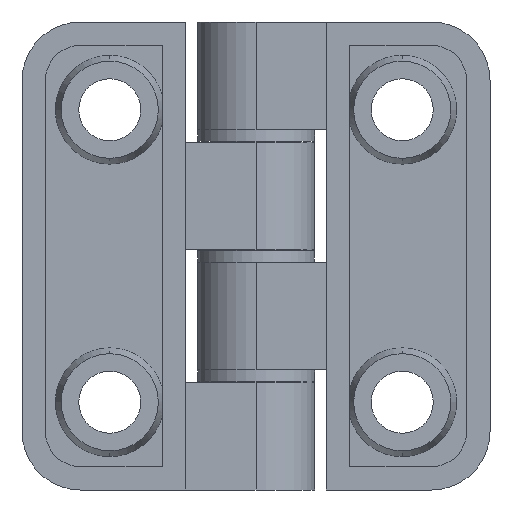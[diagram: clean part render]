
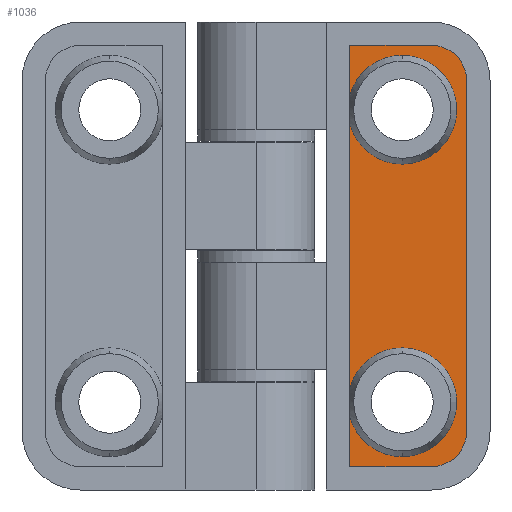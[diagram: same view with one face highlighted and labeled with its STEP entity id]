
A CAD part, front view. The second image highlights one B-rep face of the part: STEP entity #1036.
In plain terms, the highlighted planar face has unit normal (0, -1, 0).
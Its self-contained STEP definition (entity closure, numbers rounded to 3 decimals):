
#39 = DIRECTION ( 'NONE',  ( 0., 1., 0. ) ) ;
#41 = DIRECTION ( 'NONE',  ( 1., 0., 0. ) ) ;
#56 = PLANE ( 'NONE',  #2401 ) ;
#68 = CARTESIAN_POINT ( 'NONE',  ( 12.5, -4., 12.5 ) ) ;
#77 = ORIENTED_EDGE ( 'NONE', *, *, #2091, .T. ) ;
#82 = DIRECTION ( 'NONE',  ( 0., -1., 0. ) ) ;
#138 = AXIS2_PLACEMENT_3D ( 'NONE', #68, #2750, #449 ) ;
#189 = VECTOR ( 'NONE', #3817, 1000. ) ;
#265 = CARTESIAN_POINT ( 'NONE',  ( 15., -4., 15. ) ) ;
#266 = CARTESIAN_POINT ( 'NONE',  ( 15., -4., -15. ) ) ;
#305 = VERTEX_POINT ( 'NONE', #742 ) ;
#311 = LINE ( 'NONE', #3446, #189 ) ;
#312 = CARTESIAN_POINT ( 'NONE',  ( 8., -4., 18. ) ) ;
#316 = LINE ( 'NONE', #4300, #4244 ) ;
#443 = CARTESIAN_POINT ( 'NONE',  ( 18., -4., -15. ) ) ;
#449 = DIRECTION ( 'NONE',  ( 1., 0., 0. ) ) ;
#522 = CIRCLE ( 'NONE', #4781, 4.65 ) ;
#595 = VERTEX_POINT ( 'NONE', #1098 ) ;
#638 = CARTESIAN_POINT ( 'NONE',  ( 8., -4., -18. ) ) ;
#646 = DIRECTION ( 'NONE',  ( 1., 0., 0. ) ) ;
#665 = CARTESIAN_POINT ( 'NONE',  ( 15., -4., -18. ) ) ;
#690 = DIRECTION ( 'NONE',  ( 0., 0., -1. ) ) ;
#692 = DIRECTION ( 'NONE',  ( 0., 1., 0. ) ) ;
#740 = CARTESIAN_POINT ( 'NONE',  ( 15., -4., -15. ) ) ;
#742 = CARTESIAN_POINT ( 'NONE',  ( 12.5, -4., 7.85 ) ) ;
#747 = ORIENTED_EDGE ( 'NONE', *, *, #4128, .T. ) ;
#841 = ORIENTED_EDGE ( 'NONE', *, *, #4550, .T. ) ;
#914 = ORIENTED_EDGE ( 'NONE', *, *, #1055, .T. ) ;
#938 = ORIENTED_EDGE ( 'NONE', *, *, #1867, .T. ) ;
#1032 = DIRECTION ( 'NONE',  ( 0., 1., 0. ) ) ;
#1036 = ADVANCED_FACE ( 'NONE', ( #4544 ), #56, .T. ) ;
#1044 = VERTEX_POINT ( 'NONE', #4673 ) ;
#1055 = EDGE_CURVE ( 'NONE', #4364, #1138, #1392, .T. ) ;
#1074 = VERTEX_POINT ( 'NONE', #2708 ) ;
#1079 = VECTOR ( 'NONE', #4552, 1000. ) ;
#1098 = CARTESIAN_POINT ( 'NONE',  ( 18., -4., 15. ) ) ;
#1127 = DIRECTION ( 'NONE',  ( 1., 0., 0. ) ) ;
#1138 = VERTEX_POINT ( 'NONE', #4456 ) ;
#1192 = LINE ( 'NONE', #4160, #1079 ) ;
#1217 = VERTEX_POINT ( 'NONE', #3087 ) ;
#1238 = CARTESIAN_POINT ( 'NONE',  ( 8., -4., -18. ) ) ;
#1392 = CIRCLE ( 'NONE', #2146, 4.65 ) ;
#1421 = CIRCLE ( 'NONE', #4078, 4.65 ) ;
#1455 = VECTOR ( 'NONE', #690, 1000. ) ;
#1634 = DIRECTION ( 'NONE',  ( 1., 0., 0. ) ) ;
#1658 = CARTESIAN_POINT ( 'NONE',  ( 12.5, -4., -17.15 ) ) ;
#1720 = CARTESIAN_POINT ( 'NONE',  ( 12.5, -4., -12.5 ) ) ;
#1726 = EDGE_CURVE ( 'NONE', #1044, #4364, #522, .T. ) ;
#1790 = LINE ( 'NONE', #443, #3686 ) ;
#1867 = EDGE_CURVE ( 'NONE', #595, #2588, #2619, .T. ) ;
#1888 = VECTOR ( 'NONE', #1634, 1000. ) ;
#1914 = VERTEX_POINT ( 'NONE', #665 ) ;
#1920 = DIRECTION ( 'NONE',  ( 0., 1., 0. ) ) ;
#1950 = ORIENTED_EDGE ( 'NONE', *, *, #4646, .T. ) ;
#1979 = DIRECTION ( 'NONE',  ( 0., 1., 0. ) ) ;
#2022 = DIRECTION ( 'NONE',  ( -1., 0., 0. ) ) ;
#2026 = ORIENTED_EDGE ( 'NONE', *, *, #3658, .T. ) ;
#2091 = EDGE_CURVE ( 'NONE', #4962, #1044, #3023, .T. ) ;
#2146 = AXIS2_PLACEMENT_3D ( 'NONE', #4946, #1032, #4652 ) ;
#2168 = EDGE_CURVE ( 'NONE', #305, #2582, #3679, .T. ) ;
#2211 = EDGE_CURVE ( 'NONE', #3496, #305, #1421, .T. ) ;
#2261 = EDGE_CURVE ( 'NONE', #1074, #3496, #4466, .T. ) ;
#2276 = ORIENTED_EDGE ( 'NONE', *, *, #2858, .T. ) ;
#2336 = CARTESIAN_POINT ( 'NONE',  ( 12.5, -4., 12.5 ) ) ;
#2387 = AXIS2_PLACEMENT_3D ( 'NONE', #265, #2946, #646 ) ;
#2401 = AXIS2_PLACEMENT_3D ( 'NONE', #266, #82, #41 ) ;
#2448 = EDGE_CURVE ( 'NONE', #1217, #595, #1790, .T. ) ;
#2555 = AXIS2_PLACEMENT_3D ( 'NONE', #4188, #1920, #4579 ) ;
#2582 = VERTEX_POINT ( 'NONE', #4779 ) ;
#2588 = VERTEX_POINT ( 'NONE', #4380 ) ;
#2619 = CIRCLE ( 'NONE', #2387, 3. ) ;
#2708 = CARTESIAN_POINT ( 'NONE',  ( 8., -4., 13.672 ) ) ;
#2722 = DIRECTION ( 'NONE',  ( 1., 0., 0. ) ) ;
#2750 = DIRECTION ( 'NONE',  ( 0., 1., 0. ) ) ;
#2858 = EDGE_CURVE ( 'NONE', #3287, #1914, #4939, .T. ) ;
#2946 = DIRECTION ( 'NONE',  ( 0., -1., 0. ) ) ;
#2981 = EDGE_LOOP ( 'NONE', ( #1950, #4891, #4375, #4103, #841, #77, #4958, #914, #747, #2276, #3863, #3634, #938, #2026 ) ) ;
#2987 = CARTESIAN_POINT ( 'NONE',  ( 12.5, -4., -12.5 ) ) ;
#3023 = CIRCLE ( 'NONE', #4442, 4.65 ) ;
#3087 = CARTESIAN_POINT ( 'NONE',  ( 18., -4., -15. ) ) ;
#3126 = DIRECTION ( 'NONE',  ( 0., 0., 1. ) ) ;
#3287 = VERTEX_POINT ( 'NONE', #638 ) ;
#3377 = DIRECTION ( 'NONE',  ( 1., 0., 0. ) ) ;
#3419 = DIRECTION ( 'NONE',  ( 0., -1., 0. ) ) ;
#3446 = CARTESIAN_POINT ( 'NONE',  ( 8., -4., 18. ) ) ;
#3496 = VERTEX_POINT ( 'NONE', #4333 ) ;
#3634 = ORIENTED_EDGE ( 'NONE', *, *, #2448, .T. ) ;
#3658 = EDGE_CURVE ( 'NONE', #2588, #4559, #316, .T. ) ;
#3679 = CIRCLE ( 'NONE', #2555, 4.65 ) ;
#3686 = VECTOR ( 'NONE', #3126, 1000. ) ;
#3744 = CARTESIAN_POINT ( 'NONE',  ( 8., -4., 18. ) ) ;
#3817 = DIRECTION ( 'NONE',  ( 0., 0., -1. ) ) ;
#3863 = ORIENTED_EDGE ( 'NONE', *, *, #4666, .T. ) ;
#4078 = AXIS2_PLACEMENT_3D ( 'NONE', #2336, #39, #2722 ) ;
#4103 = ORIENTED_EDGE ( 'NONE', *, *, #2168, .T. ) ;
#4125 = CIRCLE ( 'NONE', #4453, 3. ) ;
#4128 = EDGE_CURVE ( 'NONE', #1138, #3287, #311, .T. ) ;
#4160 = CARTESIAN_POINT ( 'NONE',  ( 8., -4., 18. ) ) ;
#4188 = CARTESIAN_POINT ( 'NONE',  ( 12.5, -4., 12.5 ) ) ;
#4244 = VECTOR ( 'NONE', #2022, 1000. ) ;
#4260 = DIRECTION ( 'NONE',  ( 1., 0., 0. ) ) ;
#4300 = CARTESIAN_POINT ( 'NONE',  ( 15., -4., 18. ) ) ;
#4333 = CARTESIAN_POINT ( 'NONE',  ( 12.5, -4., 17.15 ) ) ;
#4364 = VERTEX_POINT ( 'NONE', #1658 ) ;
#4365 = LINE ( 'NONE', #312, #1455 ) ;
#4375 = ORIENTED_EDGE ( 'NONE', *, *, #2211, .T. ) ;
#4380 = CARTESIAN_POINT ( 'NONE',  ( 15., -4., 18. ) ) ;
#4412 = CARTESIAN_POINT ( 'NONE',  ( 8., -4., -11.328 ) ) ;
#4442 = AXIS2_PLACEMENT_3D ( 'NONE', #2987, #692, #3377 ) ;
#4453 = AXIS2_PLACEMENT_3D ( 'NONE', #740, #3419, #1127 ) ;
#4456 = CARTESIAN_POINT ( 'NONE',  ( 8., -4., -13.672 ) ) ;
#4466 = CIRCLE ( 'NONE', #138, 4.65 ) ;
#4544 = FACE_OUTER_BOUND ( 'NONE', #2981, .T. ) ;
#4550 = EDGE_CURVE ( 'NONE', #2582, #4962, #4365, .T. ) ;
#4552 = DIRECTION ( 'NONE',  ( 0., 0., -1. ) ) ;
#4559 = VERTEX_POINT ( 'NONE', #3744 ) ;
#4579 = DIRECTION ( 'NONE',  ( 1., 0., 0. ) ) ;
#4646 = EDGE_CURVE ( 'NONE', #4559, #1074, #1192, .T. ) ;
#4652 = DIRECTION ( 'NONE',  ( 1., 0., 0. ) ) ;
#4666 = EDGE_CURVE ( 'NONE', #1914, #1217, #4125, .T. ) ;
#4673 = CARTESIAN_POINT ( 'NONE',  ( 12.5, -4., -7.85 ) ) ;
#4779 = CARTESIAN_POINT ( 'NONE',  ( 8., -4., 11.328 ) ) ;
#4781 = AXIS2_PLACEMENT_3D ( 'NONE', #1720, #1979, #4260 ) ;
#4891 = ORIENTED_EDGE ( 'NONE', *, *, #2261, .T. ) ;
#4939 = LINE ( 'NONE', #1238, #1888 ) ;
#4946 = CARTESIAN_POINT ( 'NONE',  ( 12.5, -4., -12.5 ) ) ;
#4958 = ORIENTED_EDGE ( 'NONE', *, *, #1726, .T. ) ;
#4962 = VERTEX_POINT ( 'NONE', #4412 ) ;
